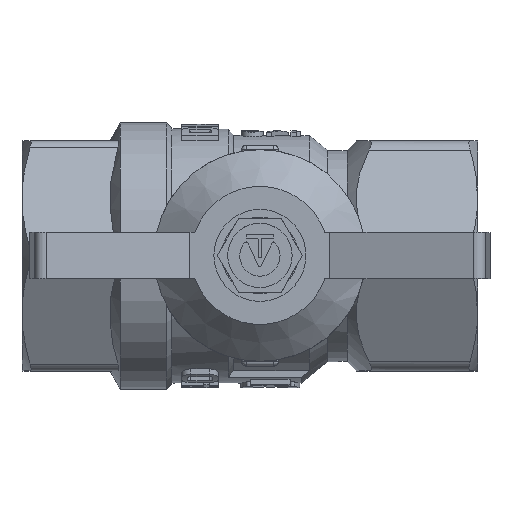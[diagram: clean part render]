
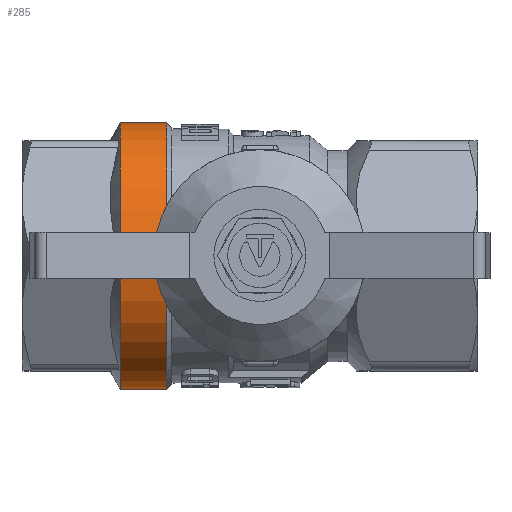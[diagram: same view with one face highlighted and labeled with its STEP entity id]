
A CAD part, top view. The second image highlights one B-rep face of the part: STEP entity #285.
In plain terms, the highlighted cylindrical face has radius 14.5 mm (diameter 29 mm), a full revolution.
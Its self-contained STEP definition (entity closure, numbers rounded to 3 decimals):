
#285=ADVANCED_FACE('',(#2192,#2194),#2196,.T.);
#2192=FACE_OUTER_BOUND('',#2193,.T.);
#2193=EDGE_LOOP('',(#4349));
#2194=FACE_BOUND('',#2195,.T.);
#2195=EDGE_LOOP('',(#4350,#4351));
#2196=CYLINDRICAL_SURFACE('',#2197,14.5);
#2197=AXIS2_PLACEMENT_3D('',#2198,#2199,#2200);
#2198=CARTESIAN_POINT('',(-13.95,0.,0.));
#2199=DIRECTION('',(1.,0.,0.));
#2200=DIRECTION('',(0.,0.,-1.));
#4349=ORIENTED_EDGE('',*,*,#5416,.F.);
#4350=ORIENTED_EDGE('',*,*,#5680,.T.);
#4351=ORIENTED_EDGE('',*,*,#5681,.T.);
#5416=EDGE_CURVE('',#6648,#6648,#6649,.T.);
#5680=EDGE_CURVE('',#7047,#7048,#7049,.T.);
#5681=EDGE_CURVE('',#7048,#7047,#7050,.T.);
#6648=VERTEX_POINT('',#11132);
#6649=CIRCLE('',#11133,14.5);
#7047=VERTEX_POINT('',#12985);
#7048=VERTEX_POINT('',#12986);
#7049=CIRCLE('',#12987,14.5);
#7050=CIRCLE('',#12991,14.5);
#11132=CARTESIAN_POINT('',(-10.139,0.,-14.5));
#11133=AXIS2_PLACEMENT_3D('',#11134,#11135,#11136);
#11134=CARTESIAN_POINT('',(-10.139,0.,0.));
#11135=DIRECTION('',(1.,0.,0.));
#11136=DIRECTION('',(0.,0.,-1.));
#12985=CARTESIAN_POINT('',(-15.15,0.,14.5));
#12986=CARTESIAN_POINT('',(-15.15,0.,-14.5));
#12987=AXIS2_PLACEMENT_3D('',#12988,#12989,#12990);
#12988=CARTESIAN_POINT('',(-15.15,0.,0.));
#12989=DIRECTION('',(1.,0.,0.));
#12990=DIRECTION('',(0.,0.,1.));
#12991=AXIS2_PLACEMENT_3D('',#12992,#12993,#12994);
#12992=CARTESIAN_POINT('',(-15.15,0.,0.));
#12993=DIRECTION('',(1.,0.,0.));
#12994=DIRECTION('',(0.,0.,-1.));
